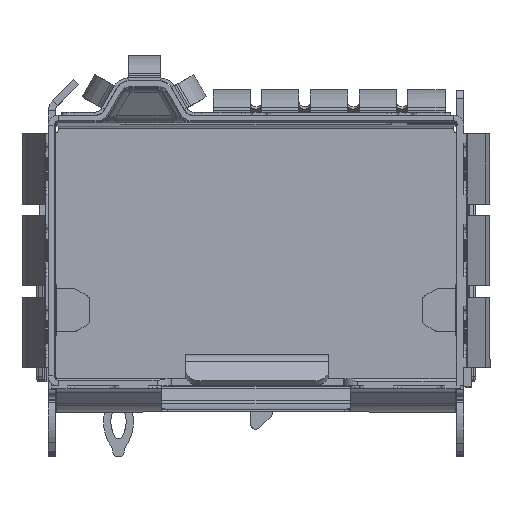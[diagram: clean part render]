
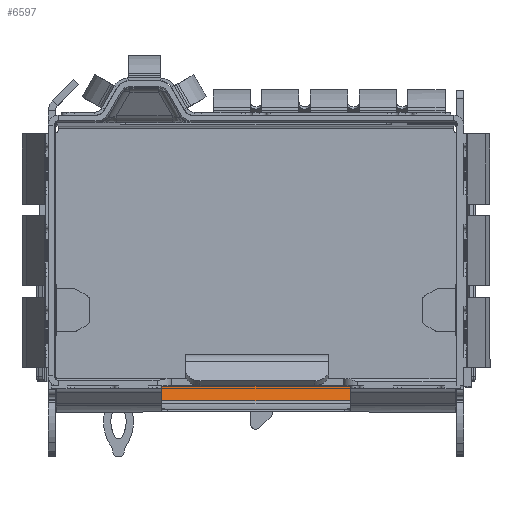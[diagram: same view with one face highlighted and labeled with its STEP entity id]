
A CAD part, top view. The second image highlights one B-rep face of the part: STEP entity #6597.
In plain terms, the highlighted planar face has unit normal (0, 0.866, 0.5).
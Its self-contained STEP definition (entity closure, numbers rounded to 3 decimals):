
#3188 = DIRECTION ( 'NONE',  ( 0., -0.5, 0.866 ) ) ;
#4109 = VECTOR ( 'NONE', #18002, 1000. ) ;
#6469 = ORIENTED_EDGE ( 'NONE', *, *, #11672, .F. ) ;
#6597 = ADVANCED_FACE ( 'NONE', ( #27480 ), #17848, .F. ) ;
#7831 = LINE ( 'NONE', #26837, #8344 ) ;
#8344 = VECTOR ( 'NONE', #14435, 1000. ) ;
#10087 = VECTOR ( 'NONE', #3188, 1000. ) ;
#10357 = VERTEX_POINT ( 'NONE', #32948 ) ;
#11337 = VECTOR ( 'NONE', #12580, 1000. ) ;
#11672 = EDGE_CURVE ( 'NONE', #24449, #36483, #35038, .T. ) ;
#11725 = DIRECTION ( 'NONE',  ( 1., 0., 0. ) ) ;
#12580 = DIRECTION ( 'NONE',  ( -1., 0., 0. ) ) ;
#14435 = DIRECTION ( 'NONE',  ( 0., 0.5, -0.866 ) ) ;
#15559 = CARTESIAN_POINT ( 'NONE',  ( -4.025, -9.961, -5.171 ) ) ;
#15717 = CARTESIAN_POINT ( 'NONE',  ( -7.125, -9.961, -5.171 ) ) ;
#17590 = ORIENTED_EDGE ( 'NONE', *, *, #17764, .T. ) ;
#17764 = EDGE_CURVE ( 'NONE', #10357, #36483, #30851, .T. ) ;
#17848 = PLANE ( 'NONE',  #28221 ) ;
#18002 = DIRECTION ( 'NONE',  ( -1., 0., 0. ) ) ;
#18675 = ORIENTED_EDGE ( 'NONE', *, *, #38178, .T. ) ;
#19636 = LINE ( 'NONE', #30519, #4109 ) ;
#20933 = VERTEX_POINT ( 'NONE', #21571 ) ;
#21571 = CARTESIAN_POINT ( 'NONE',  ( 4.025, -9.459, -6.041 ) ) ;
#24449 = VERTEX_POINT ( 'NONE', #26062 ) ;
#24823 = ORIENTED_EDGE ( 'NONE', *, *, #29659, .T. ) ;
#24968 = CARTESIAN_POINT ( 'NONE',  ( -4.025, -9.459, -6.041 ) ) ;
#26062 = CARTESIAN_POINT ( 'NONE',  ( 4.025, -9.961, -5.171 ) ) ;
#26837 = CARTESIAN_POINT ( 'NONE',  ( 4.025, -9.459, -6.041 ) ) ;
#27480 = FACE_OUTER_BOUND ( 'NONE', #28810, .T. ) ;
#28221 = AXIS2_PLACEMENT_3D ( 'NONE', #30241, #36568, #11725 ) ;
#28810 = EDGE_LOOP ( 'NONE', ( #6469, #24823, #18675, #17590 ) ) ;
#29659 = EDGE_CURVE ( 'NONE', #24449, #20933, #7831, .T. ) ;
#30241 = CARTESIAN_POINT ( 'NONE',  ( -7.125, -9.139, -6.595 ) ) ;
#30519 = CARTESIAN_POINT ( 'NONE',  ( -7.125, -9.459, -6.041 ) ) ;
#30851 = LINE ( 'NONE', #24968, #10087 ) ;
#32948 = CARTESIAN_POINT ( 'NONE',  ( -4.025, -9.459, -6.041 ) ) ;
#35038 = LINE ( 'NONE', #15717, #11337 ) ;
#36483 = VERTEX_POINT ( 'NONE', #15559 ) ;
#36568 = DIRECTION ( 'NONE',  ( 0., -0.866, -0.5 ) ) ;
#38178 = EDGE_CURVE ( 'NONE', #20933, #10357, #19636, .T. ) ;
